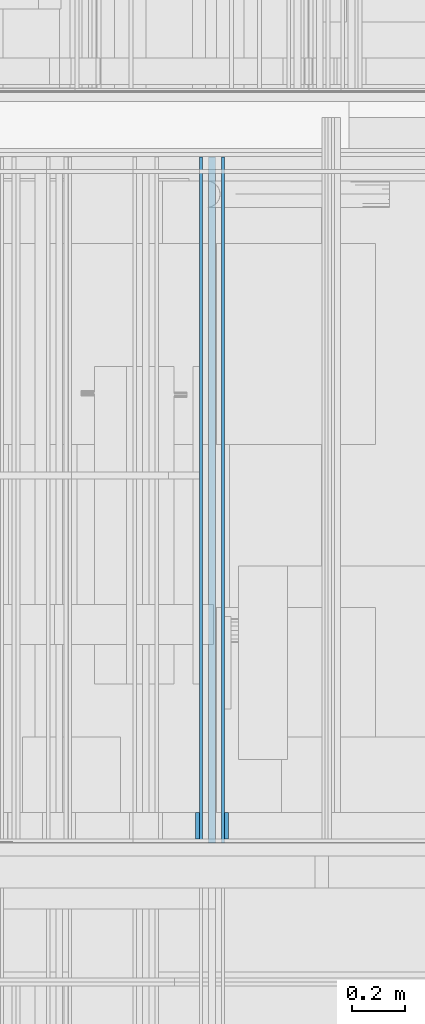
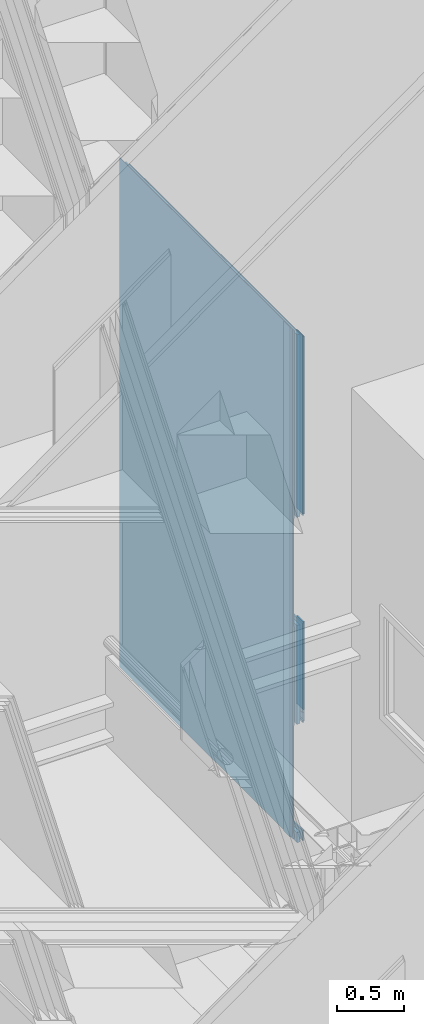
# One storey, part 123 of 583: 9 building element parts, 4 openings, 1 element without a shape of its own.
"""IFC2X3 building model written with IfcOpenShell, lengths in metres."""

from ifc_helpers import new_model, entity, si_unit, converted_unit, derived_unit, money_unit, direction, frame, frame_2d, origin_with_axes, place, context, subcontext, project, spatial, polyline, rectangle, outline, extrude, material, type_object, element, aggregate, save


model = new_model("IFC2X3")

# Units and contexts
model_context = context("Model", 3, precision=1e-05, world=origin_with_axes(), true_north=direction((0.0, 1.0)))
body_context = subcontext(model_context, "Body", "Model", "MODEL_VIEW", scale=1.0)
ifc_project = project(units=[si_unit("LENGTHUNIT", "METRE"), si_unit("AREAUNIT", "SQUARE_METRE"), si_unit("VOLUMEUNIT", "CUBIC_METRE"), si_unit("ABSORBEDDOSEUNIT", "GRAY"), si_unit("AMOUNTOFSUBSTANCEUNIT", "MOLE"), si_unit("DOSEEQUIVALENTUNIT", "SIEVERT"), si_unit("ELECTRICCAPACITANCEUNIT", "FARAD"), si_unit("ELECTRICCHARGEUNIT", "COULOMB"), si_unit("ELECTRICCONDUCTANCEUNIT", "SIEMENS"), si_unit("ELECTRICCURRENTUNIT", "AMPERE"), si_unit("ELECTRICRESISTANCEUNIT", "OHM"), si_unit("ELECTRICVOLTAGEUNIT", "VOLT"), si_unit("ENERGYUNIT", "JOULE"), si_unit("FORCEUNIT", "NEWTON"), si_unit("FREQUENCYUNIT", "HERTZ"), si_unit("ILLUMINANCEUNIT", "LUX"), si_unit("INDUCTANCEUNIT", "HENRY"), si_unit("LUMINOUSFLUXUNIT", "LUMEN"), si_unit("LUMINOUSINTENSITYUNIT", "CANDELA"), si_unit("MAGNETICFLUXDENSITYUNIT", "TESLA"), si_unit("MAGNETICFLUXUNIT", "WEBER"), si_unit("MASSUNIT", "GRAM"), converted_unit("PLANEANGLEUNIT", "degree", entity("IfcReal", 0.0174532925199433), si_unit("PLANEANGLEUNIT", "RADIAN"), dimensions=[0, 0, 0, 0, 0, 0, 0]), si_unit("POWERUNIT", "WATT"), si_unit("PRESSUREUNIT", "PASCAL"), si_unit("RADIOACTIVITYUNIT", "BECQUEREL"), si_unit("SOLIDANGLEUNIT", "STERADIAN"), si_unit("THERMODYNAMICTEMPERATUREUNIT", "KELVIN"), si_unit("TIMEUNIT", "SECOND"), derived_unit("ACCELERATIONUNIT", [(si_unit("LENGTHUNIT", "METRE"), 1), (si_unit("TIMEUNIT", "SECOND"), -2)]), derived_unit("ANGULARVELOCITYUNIT", [(converted_unit("PLANEANGLEUNIT", "degree", entity("IfcReal", 0.0174532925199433), si_unit("PLANEANGLEUNIT", "RADIAN"), dimensions=[0, 0, 0, 0, 0, 0, 0]), 1), (si_unit("TIMEUNIT", "SECOND"), -1)]), derived_unit("CURVATUREUNIT", [(converted_unit("PLANEANGLEUNIT", "degree", entity("IfcReal", 0.0174532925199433), si_unit("PLANEANGLEUNIT", "RADIAN"), dimensions=[0, 0, 0, 0, 0, 0, 0]), 1), (si_unit("LENGTHUNIT", "METRE"), -1)]), derived_unit("DYNAMICVISCOSITYUNIT", [(si_unit("PRESSUREUNIT", "PASCAL"), 1), (si_unit("TIMEUNIT", "SECOND"), 1)]), derived_unit("HEATFLUXDENSITYUNIT", [(si_unit("POWERUNIT", "WATT"), 1), (si_unit("LENGTHUNIT", "METRE"), -2)]), derived_unit("HEATINGVALUEUNIT", [(si_unit("ENERGYUNIT", "JOULE"), 1), (si_unit("MASSUNIT", "GRAM"), -1)]), derived_unit("INTEGERCOUNTRATEUNIT", [(si_unit("TIMEUNIT", "SECOND"), -1)]), derived_unit("IONCONCENTRATIONUNIT", [(si_unit("MASSUNIT", "GRAM"), 1), (si_unit("VOLUMEUNIT", "CUBIC_METRE"), -1)]), derived_unit("ISOTHERMALMOISTURECAPACITYUNIT", [(si_unit("VOLUMEUNIT", "CUBIC_METRE"), 1), (si_unit("MASSUNIT", "GRAM"), -1)]), derived_unit("KINEMATICVISCOSITYUNIT", [(si_unit("AREAUNIT", "SQUARE_METRE"), 1), (si_unit("TIMEUNIT", "SECOND"), -1)]), derived_unit("LINEARFORCEUNIT", [(si_unit("FORCEUNIT", "NEWTON"), 1), (si_unit("LENGTHUNIT", "METRE"), -1)]), derived_unit("LINEARMOMENTUNIT", [(si_unit("FORCEUNIT", "NEWTON"), 1), (si_unit("LENGTHUNIT", "METRE"), -1)]), derived_unit("LINEARSTIFFNESSUNIT", [(si_unit("FORCEUNIT", "NEWTON"), 1), (si_unit("LENGTHUNIT", "METRE"), -1)]), derived_unit("LINEARVELOCITYUNIT", [(si_unit("LENGTHUNIT", "METRE"), 1), (si_unit("TIMEUNIT", "SECOND"), -1)]), derived_unit("LUMINOUSINTENSITYDISTRIBUTIONUNIT", [(si_unit("LUMINOUSINTENSITYUNIT", "CANDELA"), 1), (si_unit("LUMINOUSFLUXUNIT", "LUMEN"), -1)]), derived_unit("MASSDENSITYUNIT", [(si_unit("MASSUNIT", "GRAM"), 1), (si_unit("VOLUMEUNIT", "CUBIC_METRE"), -1)]), derived_unit("MASSFLOWRATEUNIT", [(si_unit("MASSUNIT", "GRAM"), 1), (si_unit("TIMEUNIT", "SECOND"), -1)]), derived_unit("MASSPERLENGTHUNIT", [(si_unit("MASSUNIT", "GRAM"), 1), (si_unit("LENGTHUNIT", "METRE"), -1)]), derived_unit("MODULUSOFELASTICITYUNIT", [(si_unit("FORCEUNIT", "NEWTON"), 1), (si_unit("AREAUNIT", "SQUARE_METRE"), -1)]), derived_unit("MODULUSOFLINEARSUBGRADEREACTIONUNIT", [(si_unit("FORCEUNIT", "NEWTON"), 1), (si_unit("LENGTHUNIT", "METRE"), -2)]), derived_unit("MODULUSOFROTATIONALSUBGRADEREACTIONUNIT", [(si_unit("FORCEUNIT", "NEWTON"), 1), (si_unit("LENGTHUNIT", "METRE"), 1)]), derived_unit("MODULUSOFSUBGRADEREACTIONUNIT", [(si_unit("FORCEUNIT", "NEWTON"), 1), (si_unit("VOLUMEUNIT", "CUBIC_METRE"), -1)]), derived_unit("MOISTUREDIFFUSIVITYUNIT", [(si_unit("VOLUMEUNIT", "CUBIC_METRE"), 1), (si_unit("TIMEUNIT", "SECOND"), -1)]), derived_unit("MOLECULARWEIGHTUNIT", [(si_unit("MASSUNIT", "GRAM"), 1), (si_unit("AMOUNTOFSUBSTANCEUNIT", "MOLE"), -1)]), derived_unit("PLANARFORCEUNIT", [(si_unit("FORCEUNIT", "NEWTON"), 1), (si_unit("LENGTHUNIT", "METRE"), -2)]), derived_unit("ROTATIONALFREQUENCYUNIT", [(si_unit("TIMEUNIT", "SECOND"), -1)]), derived_unit("ROTATIONALMASSUNIT", [(si_unit("MASSUNIT", "GRAM"), 1), (si_unit("LENGTHUNIT", "METRE"), 2)]), derived_unit("ROTATIONALSTIFFNESSUNIT", [(si_unit("FORCEUNIT", "NEWTON"), 1), (si_unit("LENGTHUNIT", "METRE"), 1), (converted_unit("PLANEANGLEUNIT", "degree", entity("IfcReal", 0.0174532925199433), si_unit("PLANEANGLEUNIT", "RADIAN"), dimensions=[0, 0, 0, 0, 0, 0, 0]), -1)]), derived_unit("SECTIONAREAINTEGRALUNIT", [(si_unit("LENGTHUNIT", "METRE"), 5)]), derived_unit("SECTIONMODULUSUNIT", [(si_unit("LENGTHUNIT", "METRE"), 3)]), derived_unit("SHEARMODULUSUNIT", [(si_unit("FORCEUNIT", "NEWTON"), 1), (si_unit("AREAUNIT", "SQUARE_METRE"), -1)]), derived_unit("SOUNDPOWERUNIT", [(si_unit("ENERGYUNIT", "JOULE"), 1), (si_unit("TIMEUNIT", "SECOND"), -1)]), derived_unit("SPECIFICHEATCAPACITYUNIT", [(si_unit("FORCEUNIT", "NEWTON"), 1), (si_unit("MASSUNIT", "GRAM"), -1), (si_unit("THERMODYNAMICTEMPERATUREUNIT", "KELVIN"), -1)]), derived_unit("TEMPERATUREGRADIENTUNIT", [(si_unit("THERMODYNAMICTEMPERATUREUNIT", "KELVIN"), 1), (si_unit("LENGTHUNIT", "METRE"), -1)]), derived_unit("THERMALADMITTANCEUNIT", [(si_unit("POWERUNIT", "WATT"), 1), (si_unit("AREAUNIT", "SQUARE_METRE"), -1), (si_unit("THERMODYNAMICTEMPERATUREUNIT", "KELVIN"), -1)]), derived_unit("THERMALCONDUCTANCEUNIT", [(si_unit("POWERUNIT", "WATT"), 1), (si_unit("LENGTHUNIT", "METRE"), -1), (si_unit("THERMODYNAMICTEMPERATUREUNIT", "KELVIN"), -1)]), derived_unit("THERMALEXPANSIONCOEFFICIENTUNIT", [(si_unit("THERMODYNAMICTEMPERATUREUNIT", "KELVIN"), -1)]), derived_unit("THERMALRESISTANCEUNIT", [(si_unit("AREAUNIT", "SQUARE_METRE"), 1), (si_unit("POWERUNIT", "WATT"), -1)]), derived_unit("THERMALTRANSMITTANCEUNIT", [(si_unit("POWERUNIT", "WATT"), 1), (si_unit("AREAUNIT", "SQUARE_METRE"), -1), (si_unit("THERMODYNAMICTEMPERATUREUNIT", "KELVIN"), -1)]), derived_unit("TORQUEUNIT", [(si_unit("FORCEUNIT", "NEWTON"), 1), (si_unit("LENGTHUNIT", "METRE"), 1)]), derived_unit("VAPORPERMEABILITYUNIT", [(si_unit("MASSUNIT", "GRAM"), 1), (si_unit("TIMEUNIT", "SECOND"), -1)]), derived_unit("VOLUMETRICFLOWRATEUNIT", [(si_unit("VOLUMEUNIT", "CUBIC_METRE"), 1), (si_unit("TIMEUNIT", "SECOND"), -1)]), derived_unit("WARPINGCONSTANTUNIT", [(si_unit("LENGTHUNIT", "METRE"), 6)]), derived_unit("WARPINGMOMENTUNIT", [(si_unit("FORCEUNIT", "NEWTON"), 1), (si_unit("LENGTHUNIT", "METRE"), 2)]), money_unit("GBP")], contexts=[model_context])

# Site, building, storey
site_placement = place(None, origin_with_axes())
site = spatial("IfcSite", under=ifc_project, at=site_placement, Name="Site", CompositionType="ELEMENT")
building_placement = place(site_placement, origin_with_axes())
building = spatial("IfcBuilding", under=site, at=building_placement, Name="Building01", CompositionType="ELEMENT")
storey_placement = place(building_placement, frame((0.0, 0.0, 20.78), z_axis=(0.0, 0.0, 1.0), x_axis=(1.0, 0.0, 0.0)))
storey = spatial("IfcBuildingStorey", under=building, at=storey_placement, Name="RL", CompositionType="ELEMENT", Elevation=20.78)

# Wall, openings, building element parts
wall_type = type_object("IfcWallType", Name="SHE_A-Walls_Type05a_Partition_95mm_tall", PredefinedType="NOTDEFINED")
wall_placement = place(storey_placement, frame((10.605, 12.13, -2.84), z_axis=(0.0, 1.0, 0.0), x_axis=(0.0, 0.0, 1.0)))
wall = element("IfcWall", 1, at=wall_placement, inside=storey, type_object=wall_type, Name="5A", ObjectType="SHE_A-Walls_Type05a_Partition_95mm_tall")
opening_1_placement = place(wall_placement, frame((0.093398, 0.005, -0.015), z_axis=(0.0, 0.0, 1.0), x_axis=(1.0, 0.0, 0.0)))
element("IfcOpeningElement", 2, at=opening_1_placement, cuts=wall, Name="Opening", ObjectType="Opening", context=body_context, shape_type="SweptSolid", body=[
    extrude(rectangle(XDim=0.984, YDim=2.142, at=frame_2d((-0.492, 1.071), x_axis=(1.0, 0.0))), frame((0.0, -0.03, 0.0), z_axis=(0.0, 1.0, 0.0), x_axis=(-1.0, 0.0, 0.0)), (0.0, 0.0, 1.0), 0.06),
])
opening_2_placement = place(wall_placement, frame((1.978284, 0.005, -0.015), z_axis=(0.0, 0.0, 1.0), x_axis=(1.0, 0.0, 0.0)))
element("IfcOpeningElement", 3, at=opening_2_placement, cuts=wall, Name="Opening", ObjectType="Opening", context=body_context, shape_type="SweptSolid", body=[
    extrude(rectangle(XDim=0.984, YDim=2.142, at=frame_2d((-0.492, 1.071), x_axis=(-1.0, 0.0))), frame((0.0, -0.03, 0.0), z_axis=(0.0, 1.0, 0.0), x_axis=(-1.0, 0.0, 0.0)), (0.0, 0.0, 1.0), 0.06),
])
opening_3_placement = place(wall_placement, frame((0.093398, 0.045, 0.0), z_axis=(0.0, 0.0, 1.0), x_axis=(1.0, 0.0, 0.0)))
element("IfcOpeningElement", 4, at=opening_3_placement, cuts=wall, Name="Opening", ObjectType="Opening", context=body_context, shape_type="SweptSolid", body=[
    extrude(rectangle(XDim=2.142, YDim=0.984, at=frame_2d((-0.492, 1.071), x_axis=(0.0, -1.0))), frame((0.0, -0.0675, 0.0), z_axis=(0.0, 1.0, 0.0), x_axis=(-1.0, 0.0, 0.0)), (0.0, 0.0, 1.0), 0.135),
])
opening_4_placement = place(wall_placement, frame((1.978284, 0.045, 0.0), z_axis=(0.0, 0.0, 1.0), x_axis=(1.0, 0.0, 0.0)))
element("IfcOpeningElement", 5, at=opening_4_placement, cuts=wall, Name="Opening", ObjectType="Opening", context=body_context, shape_type="SweptSolid", body=[
    extrude(rectangle(XDim=2.142, YDim=0.984, at=frame_2d((-0.492, 1.071), x_axis=(0.0, -1.0))), frame((0.0, -0.0675, 0.0), z_axis=(0.0, 1.0, 0.0), x_axis=(-1.0, 0.0, 0.0)), (0.0, 0.0, 1.0), 0.135),
])
ifc_material_1 = material(Name="A_BSUK_Insulation")
placement = place(wall_placement, origin_with_axes())
building_element_part_1 = element("IfcBuildingElementPart", 6, at=placement, material=ifc_material_1, Name="1", context=body_context, shape_type="SweptSolid", body=[
    extrude(rectangle(XDim=4.625, YDim=0.025, at=frame_2d((2.3125, 0.0125), x_axis=(-1.0, 0.0))), origin_with_axes(), (0.0, 0.0, 1.0), 2.59),
])
ifc_material_2 = material(Name="A_BSUK_Walls_Timber")
building_element_part_2 = element("IfcBuildingElementPart", 7, at=placement, material=ifc_material_2, Name="2", context=body_context, shape_type="SweptSolid", body=[
    extrude(rectangle(XDim=0.015, YDim=0.881, at=frame_2d((1.510784, 0.0675), x_axis=(0.0, -1.0))), frame((0.0, 0.0, 0.015), z_axis=(0.0, 0.0, 1.0), x_axis=(1.0, 0.0, 0.0)), (0.0, 0.0, 1.0), 0.1),
])
building_element_part_3 = element("IfcBuildingElementPart", 8, at=placement, material=ifc_material_2, Name="3", context=body_context, shape_type="SweptSolid", body=[
    extrude(outline(polyline([(4.685, -0.035), (0.06, -0.035), (0.06, -0.05), (4.7, -0.05), (4.685, -0.035)])), frame((0.0, 0.0, 0.015), z_axis=(0.0, 0.0, 1.0), x_axis=(1.0, 0.0, 0.0)), (0.0, 0.0, 1.0), 0.1),
])
building_element_part_4 = element("IfcBuildingElementPart", 9, at=placement, material=ifc_material_2, Name="4", context=body_context, shape_type="SweptSolid", body=[
    extrude(outline(polyline([(4.575, 0.075), (1.070284, 0.075), (1.085284, 0.06), (4.59, 0.06), (4.575, 0.075)])), frame((0.0, 0.0, 0.015), z_axis=(0.0, 0.0, 1.0), x_axis=(1.0, 0.0, 0.0)), (0.0, 0.0, 1.0), 0.1),
])
building_element_part_5 = element("IfcBuildingElementPart", 10, at=placement, material=ifc_material_2, Name="5", context=body_context, shape_type="SweptSolid", body=[
    extrude(outline(polyline([(4.575, 0.075), (1.180284, 0.075), (1.180284, 0.06), (4.59, 0.06), (4.575, 0.075)])), frame((0.0, 0.0, 0.015), z_axis=(0.0, 0.0, 1.0), x_axis=(1.0, 0.0, 0.0)), (0.0, 0.0, 1.0), 0.1),
])
building_element_part_6 = element("IfcBuildingElementPart", 11, at=placement, material=ifc_material_2, Name="6", context=body_context, shape_type="SweptSolid", body=[
    extrude(outline(polyline([(4.575, 0.075), (2.920284, 0.075), (2.920284, 0.06), (4.59, 0.06), (4.575, 0.075)])), frame((0.0, 0.0, 0.015), z_axis=(0.0, 0.0, 1.0), x_axis=(1.0, 0.0, 0.0)), (0.0, 0.0, 1.0), 0.1),
])
ifc_material_3 = material(Name="A_BSUK_WallInternal_Finishes_Plasterboard")
building_element_part_7 = element("IfcBuildingElementPart", 12, at=placement, material=ifc_material_3, Name="7", context=body_context, shape_type="SweptSolid", body=[
    extrude(rectangle(XDim=1.097284, YDim=0.012, at=frame_2d((0.548642, 0.054), x_axis=(-1.0, 0.0))), origin_with_axes(), (0.0, 0.0, 1.0), 2.59),
])
building_element_part_8 = element("IfcBuildingElementPart", 13, at=placement, material=ifc_material_3, Name="8", context=body_context, shape_type="SweptSolid", body=[
    extrude(outline(polyline([(4.673, -0.023), (0.048, -0.023), (0.048, -0.035), (4.685, -0.035), (4.673, -0.023)])), origin_with_axes(), (0.0, 0.0, 1.0), 2.59),
])
building_element_part_9 = element("IfcBuildingElementPart", 14, at=placement, material=ifc_material_3, Name="9", context=body_context, shape_type="SweptSolid", body=[
    extrude(outline(polyline([(4.59, 0.06), (1.168284, 0.06), (1.168284, 0.048), (4.602, 0.048), (4.59, 0.06)])), origin_with_axes(), (0.0, 0.0, 1.0), 2.59),
])
aggregate(wall, [building_element_part_1, building_element_part_2, building_element_part_3, building_element_part_4, building_element_part_5, building_element_part_6, building_element_part_7, building_element_part_8, building_element_part_9])

save(model, "model.ifc")
